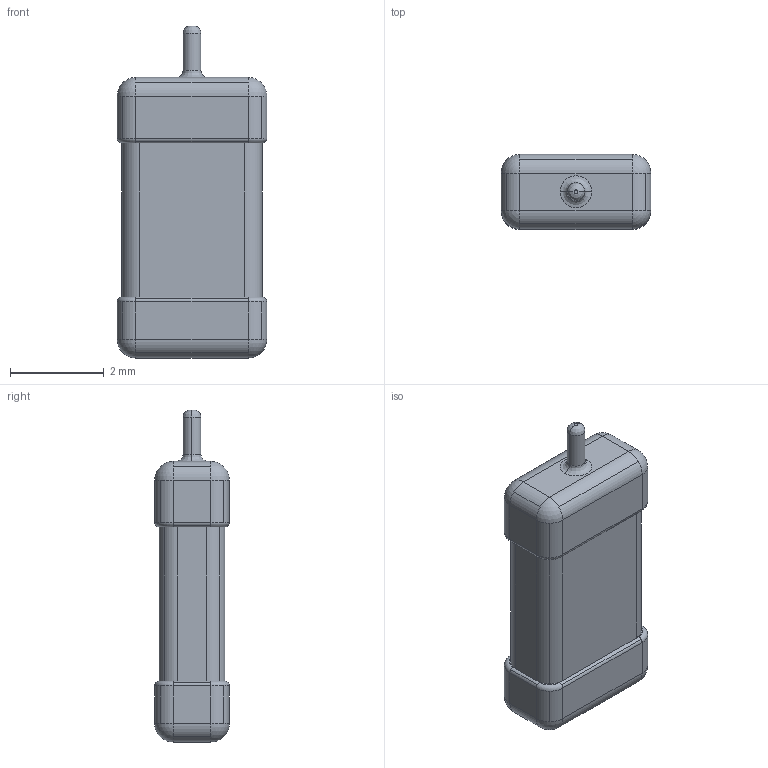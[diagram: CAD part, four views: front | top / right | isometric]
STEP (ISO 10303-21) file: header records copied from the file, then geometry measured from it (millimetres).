
FILE_DESCRIPTION((''),'2;1');
FILE_NAME('591D_C-case_16H.stp','2019-05-02T10:55:53',(''),(''),'AutoCAD STEP 2000i','AutoCAD 2000i',', , ');
FILE_SCHEMA(('CONFIG_CONTROL_DESIGN'));
Length unit declared in the file: millimetre
Products named in the file (2): 591D_C-CASE_16H; MODEL
Assembly tree (1 placements, depth 2):
  591D_C-CASE_16H
    MODEL
Bounding box: 3.2 x 1.6 x 7.1 mm (x, y, z)
Volume: 26.4 mm3; surface area: 59.9 mm2
Topology: 1 solids, 1 shells, 101 faces, 242 edges, 136 vertices
Faces by surface type: cylinder 58, plane 23, torus 8, sphere 8, bspline 4
Entity records: 3129 total; most frequent: CARTESIAN_POINT 649, DIRECTION 564, ORIENTED_EDGE 468, EDGE_CURVE 234, AXIS2_PLACEMENT_3D 231, VERTEX_POINT 136, CIRCLE 132, VECTOR 102
